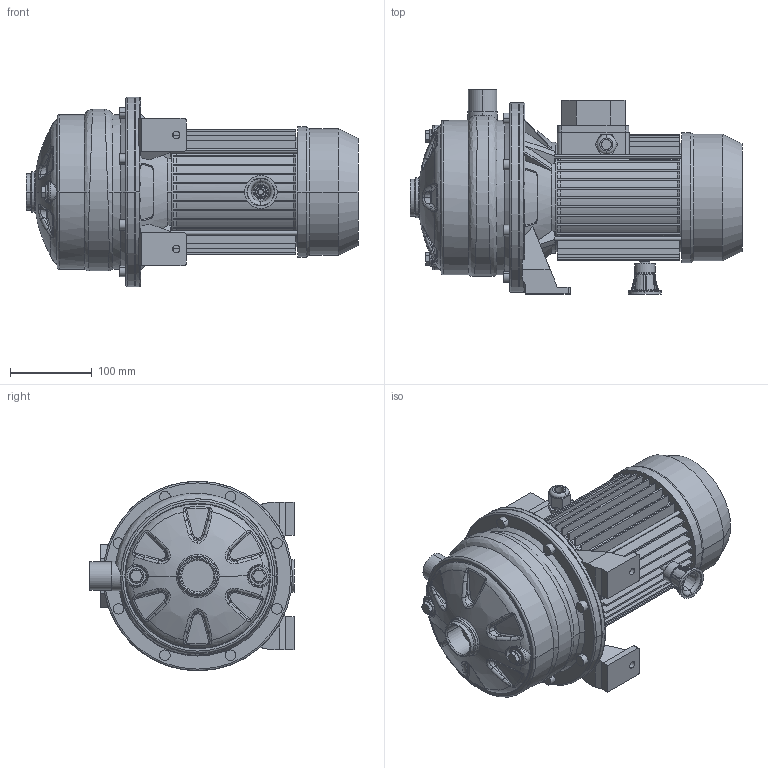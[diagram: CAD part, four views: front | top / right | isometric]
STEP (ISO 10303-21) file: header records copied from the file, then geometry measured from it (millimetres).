
FILE_DESCRIPTION((''),'2;1');
FILE_NAME('2CDX_70_15_IE3_ASM','2019-03-29T',('rosa'),('"Ebara Pumps Europe +39.444.706811"'),'PRO/ENGINEER BY PARAMETRIC TECHNOLOGY CORPORATION, 2017170','PRO/ENGINEER BY PARAMETRIC TECHNOLOGY CORPORATION, 2017170','');
FILE_SCHEMA(('AUTOMOTIVE_DESIGN { 1 0 10303 214 1 1 1 1 }'));
Length unit declared in the file: millimetre
Products named in the file (6): MEC_80X130_IE3; 80563; 251420692; 72011; 72013; 2CDX_70_15_IE3_ASM
Assembly tree (5 placements, depth 2):
  2CDX_70_15_IE3_ASM
    MEC_80X130_IE3
    80563
    251420692
    72011
    72013
Bounding box: 406.5 x 250 x 232 mm (x, y, z)
Volume: 5408211.9 mm3; surface area: 684770.6 mm2
Topology: 5 solids, 5 shells, 998 faces, 2375 edges, 1434 vertices
Faces by surface type: plane 404, bspline 188, cylinder 182, cone 130, torus 88, sphere 6
Entity records: 46488 total; most frequent: CARTESIAN_POINT 16387, ORIENTED_EDGE 4750, DIRECTION 4321, EDGE_CURVE 2375, PRESENTATION_STYLE_ASSIGNMENT 2323, STYLED_ITEM 2323, CURVE_STYLE 2319, AXIS2_PLACEMENT_3D 1737
